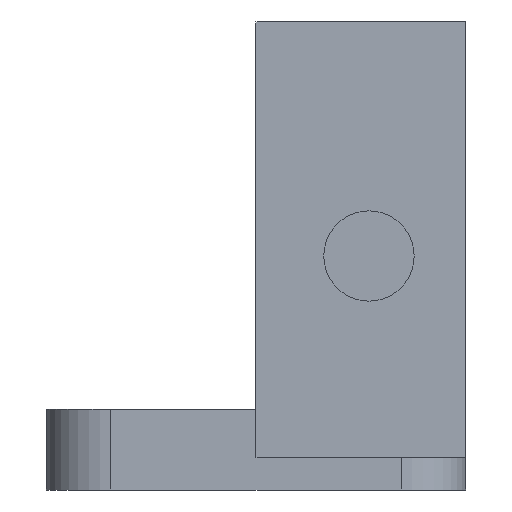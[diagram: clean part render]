
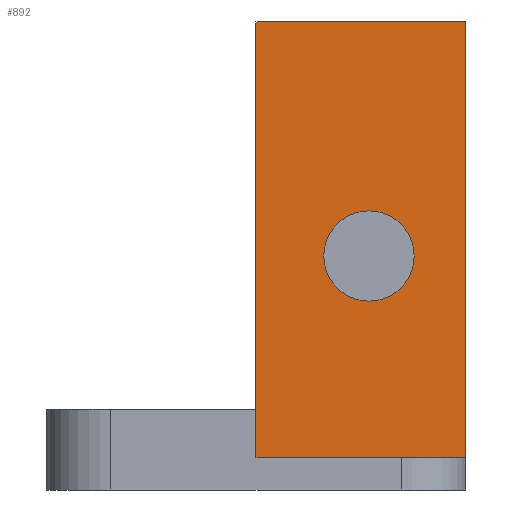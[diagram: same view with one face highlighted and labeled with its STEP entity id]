
A CAD part, front view. The second image highlights one B-rep face of the part: STEP entity #892.
In plain terms, the highlighted planar face has unit normal (0, -1, 0).
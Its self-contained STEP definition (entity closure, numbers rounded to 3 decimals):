
#21=FACE_BOUND('',#341,.T.);
#64=LINE('',#1278,#174);
#65=LINE('',#1281,#175);
#73=LINE('',#1301,#183);
#90=LINE('',#1349,#200);
#95=LINE('',#1364,#205);
#174=VECTOR('',#1035,10.);
#175=VECTOR('',#1038,10.);
#183=VECTOR('',#1056,10.);
#200=VECTOR('',#1103,10.);
#205=VECTOR('',#1120,1000.);
#286=FACE_OUTER_BOUND('',#340,.T.);
#340=EDGE_LOOP('',(#716,#717,#718,#719,#720));
#341=EDGE_LOOP('',(#721));
#370=CIRCLE('',#940,1.4);
#399=VERTEX_POINT('',#1272);
#401=VERTEX_POINT('',#1276);
#402=VERTEX_POINT('',#1280);
#409=VERTEX_POINT('',#1300);
#421=VERTEX_POINT('',#1331);
#425=VERTEX_POINT('',#1348);
#493=EDGE_CURVE('',#399,#401,#64,.T.);
#494=EDGE_CURVE('',#401,#402,#65,.T.);
#504=EDGE_CURVE('',#399,#409,#73,.T.);
#520=EDGE_CURVE('',#421,#421,#370,.T.);
#528=EDGE_CURVE('',#425,#409,#90,.T.);
#535=EDGE_CURVE('',#425,#402,#95,.T.);
#716=ORIENTED_EDGE('',*,*,#535,.F.);
#717=ORIENTED_EDGE('',*,*,#528,.T.);
#718=ORIENTED_EDGE('',*,*,#504,.F.);
#719=ORIENTED_EDGE('',*,*,#493,.T.);
#720=ORIENTED_EDGE('',*,*,#494,.T.);
#721=ORIENTED_EDGE('',*,*,#520,.T.);
#845=PLANE('',#953);
#892=ADVANCED_FACE('',(#286,#21),#845,.F.);
#940=AXIS2_PLACEMENT_3D('',#1332,#1082,#1083);
#953=AXIS2_PLACEMENT_3D('',#1363,#1118,#1119);
#1035=DIRECTION('',(0.,0.,-1.));
#1038=DIRECTION('',(1.,0.,0.));
#1056=DIRECTION('',(0.,0.,1.));
#1082=DIRECTION('center_axis',(0.,1.,0.));
#1083=DIRECTION('ref_axis',(-1.,0.,0.));
#1103=DIRECTION('',(-1.,0.,0.));
#1118=DIRECTION('center_axis',(0.,1.,0.));
#1119=DIRECTION('ref_axis',(0.,0.,1.));
#1120=DIRECTION('',(0.,0.,-1.));
#1272=CARTESIAN_POINT('',(-4.574,7.875,-4.75));
#1276=CARTESIAN_POINT('',(-4.574,7.875,-6.25));
#1278=CARTESIAN_POINT('',(-4.574,7.875,-4.75));
#1280=CARTESIAN_POINT('',(1.926,7.875,-6.25));
#1281=CARTESIAN_POINT('',(1.926,7.875,-6.25));
#1300=CARTESIAN_POINT('',(-4.574,7.875,7.25));
#1301=CARTESIAN_POINT('',(-4.574,7.875,-4.75));
#1331=CARTESIAN_POINT('',(0.326,7.875,0.));
#1332=CARTESIAN_POINT('Origin',(-1.074,7.875,0.));
#1348=CARTESIAN_POINT('',(1.926,7.875,7.25));
#1349=CARTESIAN_POINT('',(-4.074,7.875,7.25));
#1363=CARTESIAN_POINT('Origin',(1.926,7.875,-6.7));
#1364=CARTESIAN_POINT('',(1.926,7.875,-6.7));
